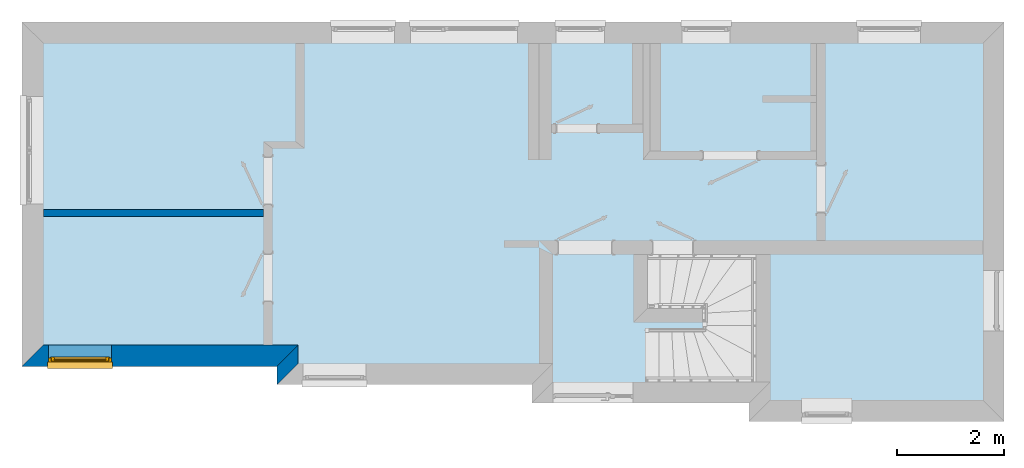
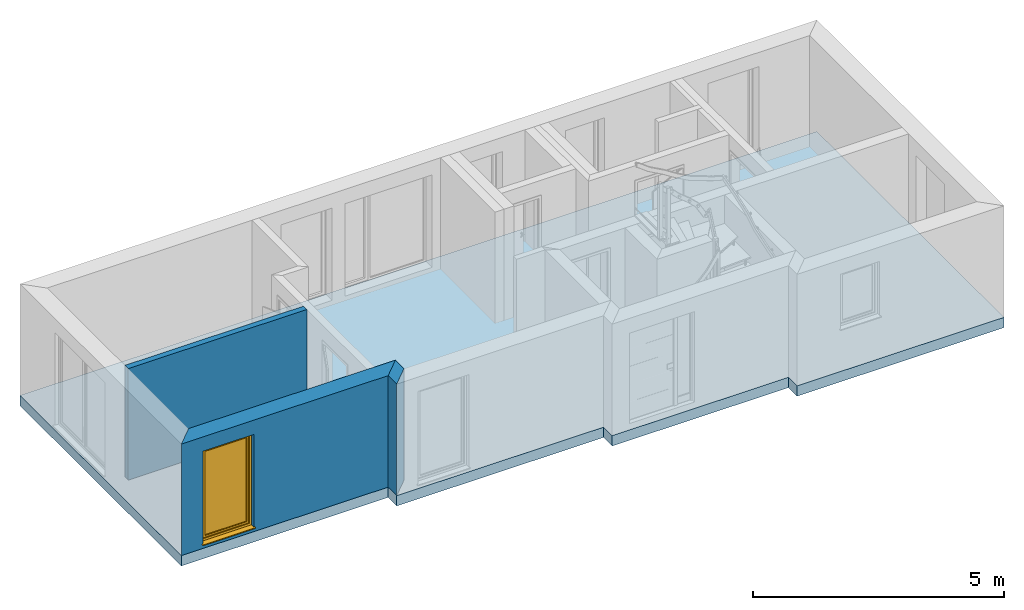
# One storey, part 1 of 13: 3 walls, 1 slab, 1 window, 1 opening.
"""IFC2X3 building model written with IfcOpenShell, lengths in millimetres."""

from ifc_helpers import new_model, si_unit, frame, origin_with_axes, place, context, project, spatial, faceted_brep, material, layer, layer_set, layer_usage, type_object, element, fill, save


model = new_model("IFC2X3")

# Units and contexts
model_context = context("Model", 3, world=origin_with_axes())
ifc_project = project(units=[si_unit("LENGTHUNIT", "METRE", prefix="MILLI")], contexts=[model_context])

# Site, building, storey
site_placement = place(None, origin_with_axes())
site = spatial("IfcSite", under=ifc_project, at=site_placement, Name="Site", CompositionType="ELEMENT")
building_placement = place(site_placement, origin_with_axes())
building = spatial("IfcBuilding", under=site, at=building_placement, Name="?", CompositionType="ELEMENT")
storey_placement = place(building_placement, origin_with_axes())
storey = spatial("IfcBuildingStorey", under=building, at=storey_placement, Name="Erdgeschoß", CompositionType="ELEMENT", Elevation=0.0)

# Slab
slab_placement = place(storey_placement, frame((0.0, 0.0, -250.0), z_axis=(0.0, 0.0, 1.0), x_axis=(1.0, 0.0, 0.0)))
element("IfcSlab", 1, at=slab_placement, inside=storey, Name="DE", PredefinedType="BASESLAB", context=model_context, shape_type="Brep", body=[
    faceted_brep([(0.0, -6415.0, 0.0), (0.0, 0.0, 0.0), (18300.0, 0.0, 0.0), (18300.0, -7440.0, 0.0), (13550.0, -7440.0, 0.0), (13550.0, -7098.0, 0.0), (9500.0, -7098.0, 0.0), (9500.0, -6756.0, 0.0), (4750.0, -6756.0, 0.0), (4750.0, -6415.0, 0.0), (0.0, -6415.0, 250.0), (4750.0, -6415.0, 250.0), (4750.0, -6756.0, 250.0), (9500.0, -6756.0, 250.0), (9500.0, -7098.0, 250.0), (13550.0, -7098.0, 250.0), (13550.0, -7440.0, 250.0), (18300.0, -7440.0, 250.0), (18300.0, 0.0, 250.0), (0.0, 0.0, 250.0), (9500.0, -6756.0, 0.0), (9500.0, -6756.0, 250.0), (4750.0, -6756.0, 250.0), (4750.0, -6756.0, 0.0), (9500.0, -7098.0, 0.0), (9500.0, -7098.0, 250.0), (9500.0, -6756.0, 250.0), (9500.0, -6756.0, 0.0), (18300.0, -7440.0, 0.0), (18300.0, -7440.0, 250.0), (13550.0, -7440.0, 250.0), (13550.0, -7440.0, 0.0), (18300.0, 0.0, 0.0), (18300.0, 0.0, 250.0), (18300.0, -7440.0, 250.0), (18300.0, -7440.0, 0.0), (4750.0, -6756.0, 0.0), (4750.0, -6756.0, 250.0), (4750.0, -6415.0, 250.0), (4750.0, -6415.0, 0.0), (13550.0, -7098.0, 0.0), (13550.0, -7098.0, 250.0), (9500.0, -7098.0, 250.0), (9500.0, -7098.0, 0.0), (4750.0, -6415.0, 0.0), (4750.0, -6415.0, 250.0), (0.0, -6415.0, 250.0), (0.0, -6415.0, 0.0), (0.0, 0.0, 0.0), (0.0, 0.0, 250.0), (18300.0, 0.0, 250.0), (18300.0, 0.0, 0.0), (0.0, -6415.0, 0.0), (0.0, -6415.0, 250.0), (0.0, 0.0, 250.0), (0.0, 0.0, 0.0), (13550.0, -7440.0, 0.0), (13550.0, -7440.0, 250.0), (13550.0, -7098.0, 250.0), (13550.0, -7098.0, 0.0)], [[[0, 1, 2, 3, 4, 5, 6, 7, 8, 9]], [[10, 11, 12, 13, 14, 15, 16, 17, 18, 19]], [[20, 21, 22, 23]], [[24, 25, 26, 27]], [[28, 29, 30, 31]], [[32, 33, 34, 35]], [[36, 37, 38, 39]], [[40, 41, 42, 43]], [[44, 45, 46, 47]], [[48, 49, 50, 51]], [[52, 53, 54, 55]], [[56, 57, 58, 59]]]),
])

# Wall
ifc_material_1 = material(Name="Material_AW")
ifc_layer_1 = layer(ifc_material_1, 395.0, ventilated=False)
ifc_layer_set_1 = layer_set([ifc_layer_1], Name="MaterialLayerSet_AW")
ifc_layer_usage_1 = layer_usage(ifc_layer_set_1, "AXIS2", "NEGATIVE", 197.5)
wall_1_placement = place(storey_placement, frame((4947.5, -6558.5, 0.0), z_axis=(0.0, 0.0, 1.0), x_axis=(0.0, 1.0, 0.0)))
element("IfcWall", 2, at=wall_1_placement, inside=storey, material=ifc_layer_usage_1, Name="AW-08", context=model_context, shape_type="Brep", body=[
    faceted_brep([(538.50000682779, -197.5, 0.0), (538.50000682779, -197.5, 2707.0), (197.5, -197.5, 2707.0), (197.5, -197.5, 0.0), (143.50000682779, 197.5, 0.0), (143.50000682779, 197.5, 150.0), (143.50000682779, 197.5, 2707.0), (538.50000682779, -197.5, 2707.0), (538.50000682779, -197.5, 0.0), (-197.5, 197.5, 0.0), (-197.5, 197.5, 150.0), (143.50000682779, 197.5, 150.0), (143.50000682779, 197.5, 0.0), (-197.5, 197.5, 150.0), (-197.5, 197.5, 2707.0), (143.50000682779, 197.5, 2707.0), (143.50000682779, 197.5, 150.0), (197.5, -197.5, 0.0), (197.5, -197.5, 2707.0), (-197.5, 197.5, 2707.0), (-197.5, 197.5, 150.0), (-197.5, 197.5, 0.0), (197.5, -197.5, 0.0), (-197.5, 197.5, 0.0), (143.50000682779, 197.5, 0.0), (538.50000682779, -197.5, 0.0), (-197.5, 197.5, 2707.0), (197.5, -197.5, 2707.0), (538.50000682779, -197.5, 2707.0), (143.50000682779, 197.5, 2707.0)], [[[0, 1, 2, 3]], [[4, 5, 6, 7, 8]], [[9, 10, 11, 12]], [[13, 14, 15, 16]], [[17, 18, 19, 20, 21]], [[22, 23, 24, 25]], [[26, 27, 28, 29]]]),
])

# Wall, opening, window
wall_2_placement = place(storey_placement, frame((4947.5, -6217.5, 0.0), z_axis=(0.0, 0.0, 1.0), x_axis=(-1.0, 0.0, 0.0)))
wall_2 = element("IfcWall", 3, at=wall_2_placement, inside=storey, material=ifc_layer_usage_1, Name="AW-09", context=model_context, shape_type="Brep", body=[
    faceted_brep([(4552.50024192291, -197.5, 0.0), (4552.50024192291, -197.5, 2707.0), (-197.5, -197.5, 2707.0), (-197.5, -197.5, 0.0), (4947.50024192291, 197.5, 0.0), (4947.50024192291, 197.5, 150.0), (4947.50024192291, 197.5, 2707.0), (4552.50024192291, -197.5, 2707.0), (4552.50024192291, -197.5, 0.0), (197.5, 197.5, 0.0), (197.5, 197.5, 150.0), (3282.5, 197.5, 150.0), (3282.5, 197.5, 116.0), (4452.5, 197.5, 116.0), (4452.5, 197.5, 150.0), (4947.50024192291, 197.5, 150.0), (4947.50024192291, 197.5, 0.0), (197.5, 197.5, 150.0), (197.5, 197.5, 2707.0), (4947.50024192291, 197.5, 2707.0), (4947.50024192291, 197.5, 150.0), (4452.5, 197.5, 150.0), (4452.5, 197.5, 116.0), (3282.5, 197.5, 116.0), (3282.5, 197.5, 150.0), (-197.5, -197.5, 0.0), (-197.5, -197.5, 2707.0), (197.5, 197.5, 2707.0), (197.5, 197.5, 150.0), (197.5, 197.5, 0.0), (-197.5, -197.5, 0.0), (197.5, 197.5, 0.0), (4947.50024192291, 197.5, 0.0), (4552.50024192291, -197.5, 0.0), (197.5, 197.5, 2707.0), (-197.5, -197.5, 2707.0), (4552.50024192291, -197.5, 2707.0), (4947.50024192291, 197.5, 2707.0)], [[[0, 1, 2, 3]], [[4, 5, 6, 7, 8]], [[9, 10, 11, 12, 13, 14, 15, 16]], [[17, 18, 19, 20, 21, 22, 23, 24]], [[25, 26, 27, 28, 29]], [[30, 31, 32, 33]], [[34, 35, 36, 37]]]),
])
opening_placement = place(wall_2_placement, frame((3282.5, 0.0, 116.0), z_axis=(0.0, 0.0, 1.0), x_axis=(1.0, 0.0, 0.0)))
opening = element("IfcOpeningElement", 4, at=opening_placement, cuts=wall_2, Name="AW-09|FE08", context=model_context, shape_type="Brep", body=[
    faceted_brep([(0.0, 207.5, 0.0), (0.0, 207.5, 2244.0), (1170.0, 207.5, 2244.0), (1170.0, 207.5, 0.0), (0.0, -207.5, 0.0), (0.0, -207.5, 2244.0), (0.0, 207.5, 2244.0), (0.0, 207.5, 0.0), (1170.0, -207.5, 0.0), (0.0, -207.5, 0.0), (0.0, 207.5, 0.0), (1170.0, 207.5, 0.0), (1170.0, -207.5, 2244.0), (1170.0, -207.5, 0.0), (1170.0, 207.5, 0.0), (1170.0, 207.5, 2244.0), (0.0, -207.5, 2244.0), (1170.0, -207.5, 2244.0), (1170.0, 207.5, 2244.0), (0.0, 207.5, 2244.0), (0.0, -207.5, 0.0), (1170.0, -207.5, 0.0), (1170.0, -207.5, 2244.0), (0.0, -207.5, 2244.0)], [[[0, 1, 2, 3]], [[4, 5, 6, 7]], [[8, 9, 10, 11]], [[12, 13, 14, 15]], [[16, 17, 18, 19]], [[20, 21, 22, 23]]]),
])
window_style = type_object("IfcWindowStyle", Name="FE08", ConstructionType="NOTDEFINED", OperationType="SINGLE_PANEL", ParameterTakesPrecedence=True, Sizeable=False)
window_placement = place(opening_placement, frame((1170.0, 77.5, 0.0), z_axis=(0.0, 0.0, 1.0), x_axis=(-1.0, 0.0, 0.0)))
window = element("IfcWindow", 5, at=window_placement, inside=storey, type_object=window_style, Name="FE08", OverallHeight=2244.0, OverallWidth=1170.0, context=model_context, shape_type="Brep", body=[
    faceted_brep([(0.0, -36.0, 0.0), (1170.0, -36.0, 0.0), (1155.0, -36.0, 15.0), (15.0, -36.0, 15.0), (15.0, 36.0, 15.0), (1155.0, 36.0, 15.0), (1170.0, 36.0, 0.0), (0.0, 36.0, 0.0), (0.0, 36.0, 0.0), (1170.0, 36.0, 0.0), (1170.0, -36.0, 0.0), (0.0, -36.0, 0.0), (1170.0, -36.0, 0.0), (1170.0, -36.0, 2244.0), (1155.0, -36.0, 2229.0), (1155.0, -36.0, 15.0), (1155.0, 36.0, 14.9999542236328), (1155.0, 36.0, 2229.0), (1170.0, 36.0, 2244.0), (1170.0, 36.0, -4.57763671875e-05), (1170.0, 36.0, 0.0), (1170.0, 36.0, 2244.0), (1170.0, -36.0, 2244.0), (1170.0, -36.0, 0.0), (1170.0, -36.0, 2244.0), (-2.27373675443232e-13, -36.0, 2244.0), (14.9999999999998, -35.9995117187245, 2228.99999999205), (1155.0, -35.9995117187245, 2228.99999999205), (1155.0, 36.0, 2229.0), (14.9999999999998, 36.0, 2229.0), (-2.27373675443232e-13, 35.9995117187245, 2244.00000000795), (1170.0, 35.9995117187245, 2244.00000000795), (1170.0, 36.0, 2244.0), (0.0, 36.0, 2244.0), (0.0, -36.0, 2244.0), (1170.0, -36.0, 2244.0), (0.0, -36.0, 2244.0), (0.0, -36.0, 0.0), (15.0, -36.0, 15.0), (15.0, -36.0, 2229.0), (15.0, 36.0, 2228.99975585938), (15.0, 36.0, 14.999755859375), (0.0, 36.0, -0.000244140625), (0.0, 36.0, 2243.99975585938), (0.0, 36.0, 2244.0), (0.0, 36.0, 0.0), (0.0, -36.0, 0.0), (0.0, -36.0, 2244.0), (1155.0, 36.0, 15.0), (15.0, 36.0, 15.0), (43.0, 36.0, 43.0), (1127.0, 36.0, 43.0), (1127.0, 36.0, 43.0), (43.0, 36.0, 43.0), (43.0, -21.0, 43.0), (1127.0, -21.0, 43.0), (1127.0, -21.0, 43.0), (43.0, -21.0, 43.0), (60.0, -21.0, 60.0), (1110.0, -21.0, 60.0), (1110.0, -21.0, 60.0), (60.0, -21.0, 60.0), (60.0, -25.0, 60.0), (1110.0, -25.0, 60.0), (1110.0, -25.0, 60.0), (60.0, -25.0, 60.0), (53.0, -36.0014649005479, 52.9990537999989), (1117.0, -36.0014649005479, 52.9990537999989), (1117.0, -36.0, 53.0), (53.0, -36.0, 53.0), (15.0, -36.0, 15.0), (1155.0, -36.0, 15.0), (1155.0, 36.0, 2229.0), (1155.0, 36.0, 15.0), (1127.0, 36.0, 43.0), (1127.0, 36.0, 2201.0), (1127.0, 36.0, 2201.0), (1127.0, 36.0, 43.0), (1127.0, -21.0, 43.0), (1127.0, -21.0, 2201.0), (1127.0, -21.0, 2201.0), (1127.0, -21.0, 43.0), (1110.0, -21.0, 60.0), (1110.0, -21.0, 2184.0), (1110.0, -21.0, 2184.0), (1110.0, -21.0, 60.0), (1110.0, -25.0, 60.0), (1110.0, -25.0, 2184.0), (1110.0, -25.0000000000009, 2184.0), (1110.0, -25.0000000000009, 60.0), (1117.00097675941, -36.0014647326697, 53.0), (1117.00097675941, -36.0014647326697, 2191.0), (1117.0, -36.0, 2191.0), (1117.0, -36.0, 53.0), (1155.0, -36.0, 15.0), (1155.0, -36.0, 2229.0), (15.0, 36.0, 2229.0), (1155.0, 36.0, 2229.0), (1127.0, 36.0004882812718, 2200.99999999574), (43.0, 36.0004882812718, 2200.99999999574), (43.0, 36.0, 2201.0), (1127.0, 36.0, 2201.0), (1127.0, -21.0, 2201.0), (43.0, -21.0, 2201.0), (43.0000000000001, -21.0, 2201.0), (1127.0, -21.0, 2201.0), (1110.0, -21.0004882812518, 2183.99999999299), (60.0000000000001, -21.0004882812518, 2183.99999999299), (60.0, -21.0, 2184.0), (1110.0, -21.0, 2184.0), (1110.0, -25.0, 2184.0), (60.0, -25.0, 2184.0), (60.0, -25.0000000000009, 2184.0), (1110.0, -25.0000000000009, 2184.0), (1117.0, -36.0009765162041, 2191.00097633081), (53.0, -36.0009765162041, 2191.00097633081), (53.0000000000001, -36.0, 2191.0), (1117.0, -36.0, 2191.0), (1155.0, -36.0004882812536, 2229.00000000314), (15.0000000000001, -36.0004882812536, 2229.00000000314), (15.0, 36.0, 15.0), (15.0, 36.0, 2229.0), (43.0, 36.0, 2201.0), (43.0, 36.0, 43.0), (43.0, 36.0, 42.9999847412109), (43.0, 36.0, 2201.0), (43.0, -21.0, 2201.0), (43.0, -21.0, 42.9999847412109), (43.0, -21.0, 42.9999847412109), (43.0, -21.0, 2201.0), (60.0, -21.0, 2184.0), (60.0, -21.0, 59.9999847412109), (60.0, -21.0, 59.9999847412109), (60.0, -21.0, 2184.0), (60.0, -25.0, 2184.0), (60.0, -25.0, 59.9999847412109), (60.0, -25.0, 59.9999847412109), (60.0, -25.0, 2184.0), (52.9990232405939, -36.0014647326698, 2191.0), (52.9990232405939, -36.0014647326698, 52.9999847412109), (53.0, -36.0, 53.0), (53.0, -36.0, 2191.0), (15.0, -36.0, 2229.0), (15.0, -36.0, 15.0), (1137.0, 52.0, 33.0), (33.0, 52.0, 33.0), (96.0, 52.0, 96.0), (1074.0, 52.0, 96.0), (1074.0, 52.0, 96.0), (96.0000000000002, 52.0, 96.0), (110.0, 19.9985360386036, 110.000686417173), (1060.0, 19.9985360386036, 110.000686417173), (1060.0, 20.0, 110.0), (110.0, 20.0, 110.0), (103.0, 20.0, 103.0), (1067.0, 20.0, 103.0), (1067.0, 20.0, 103.0), (103.0, 20.0, 103.0), (103.0, -4.0, 103.0), (1067.0, -4.0, 103.0), (1067.0, -4.0, 103.0), (103.0, -4.0, 103.0), (110.0, -4.0, 110.0), (1060.0, -4.0, 110.0), (1060.0, -4.0, 110.0), (110.0, -4.0, 110.0), (102.0, -21.001464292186, 101.999175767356), (1068.0, -21.001464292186, 101.999175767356), (1068.0, -21.0, 102.0), (102.0, -21.0, 102.0), (51.0, -21.0, 51.0), (1119.0, -21.0, 51.0), (1119.0, -21.0, 51.0), (51.0, -21.0, 51.0), (51.0, 36.0, 51.0), (1119.0, 36.0, 51.0), (1119.0, 36.0, 51.0), (51.0, 36.0, 51.0), (33.0, 36.0, 33.0), (1137.0, 36.0, 33.0), (1137.0, 36.0, 33.0), (33.0, 36.0, 33.0), (33.0, 52.0, 33.0), (1137.0, 52.0, 33.0), (1137.0, 52.0, 2211.0), (1137.0, 52.0, 33.0), (1074.0, 52.0, 96.0), (1074.0, 52.0, 2148.0), (1074.0, 52.0, 2148.0), (1074.0, 52.0, 96.0), (1059.99902341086, 19.99853575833, 110.0), (1059.99902341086, 19.99853575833, 2134.0), (1060.0, 20.0, 2134.0), (1060.0, 20.0, 110.0), (1067.0, 20.0, 103.0), (1067.0, 20.0, 2141.0), (1067.0, 20.0, 2141.0), (1067.0, 20.0, 103.0), (1067.0, -4.0, 103.0), (1067.0, -4.0, 2141.0), (1067.0, -4.0, 2141.0), (1067.0, -4.0, 103.0), (1060.0, -4.0, 110.0), (1060.0, -4.0, 2134.0), (1060.0, -4.0, 2134.0), (1060.0, -4.0, 110.0), (1068.00097677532, -21.0014648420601, 102.0), (1068.00097677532, -21.0014648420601, 2142.0), (1068.0, -21.0, 2142.0), (1068.0, -21.0, 102.0), (1119.0, -21.0, 51.0), (1119.0, -21.0, 2193.0), (1119.0, -21.0, 2193.0), (1119.0, -21.0, 51.0), (1119.0, 36.0, 51.0), (1119.0, 36.0, 2193.0), (1119.0, 36.0, 2193.0), (1119.0, 36.0, 51.0), (1137.0, 36.0, 33.0), (1137.0, 36.0, 2211.0), (1137.0, 36.0, 2211.0), (1137.0, 36.0, 33.0), (1137.0, 52.0, 33.0), (1137.0, 52.0, 2211.0), (33.0, 52.0, 2211.0), (1137.0, 52.0, 2211.0), (1074.0, 52.0, 2148.0), (96.0, 52.0, 2148.0), (96.0, 52.0, 2148.0), (1074.0, 52.0, 2148.0), (1060.0, 19.9985358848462, 2133.99926771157), (110.0, 19.9985358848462, 2133.99926771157), (110.0, 20.0, 2134.0), (1060.0, 20.0, 2134.0), (1067.0, 20.0, 2141.0), (103.0, 20.0, 2141.0), (103.0, 20.0, 2141.0), (1067.0, 20.0, 2141.0), (1067.0, -4.0, 2141.0), (103.0, -4.0, 2141.0), (103.0, -4.0, 2141.0), (1067.0, -4.0, 2141.0), (1060.0, -4.0, 2134.0), (110.0, -4.0, 2134.0), (110.0, -4.0, 2134.0), (1060.0, -4.0, 2134.0), (1068.0, -21.0014648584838, 2142.00073259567), (102.0, -21.0014648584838, 2142.00073259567), (102.0, -21.0, 2142.0), (1068.0, -21.0, 2142.0), (1119.0, -21.0, 2193.0), (51.0, -21.0, 2193.0), (51.0, -21.0, 2193.0), (1119.0, -21.0, 2193.0), (1119.0, 36.0, 2193.0), (51.0, 36.0, 2193.0), (51.0, 36.0, 2193.0), (1119.0, 36.0, 2193.0), (1137.0, 36.0, 2211.0), (33.0, 36.0, 2211.0), (33.0, 36.0, 2211.0), (1137.0, 36.0, 2211.0), (1137.0, 52.0, 2211.0), (33.0, 52.0, 2211.0), (33.0, 52.0, 32.9999847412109), (33.0, 52.0, 2211.0), (96.0, 52.0, 2148.0), (96.0, 52.0, 95.9999847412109), (95.9999999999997, 52.0000000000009, 95.9999847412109), (95.9999999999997, 52.0000000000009, 2148.0), (110.000976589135, 19.9985357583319, 2134.0), (110.000976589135, 19.9985357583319, 109.999984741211), (110.0, 20.0, 110.0), (110.0, 20.0, 2134.0), (103.0, 20.0, 2141.0), (103.0, 20.0, 103.0), (103.0, 20.0, 103.000015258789), (103.0, 20.0, 2141.0), (103.0, -4.0, 2141.0), (103.0, -4.0, 103.000015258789), (103.0, -4.0, 103.000015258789), (103.0, -4.0, 2141.0), (110.0, -4.0, 2134.0), (110.0, -4.0, 110.000015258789), (110.0, -4.0, 110.0), (110.0, -4.0, 2134.0), (101.999023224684, -21.0014648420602, 2142.0), (101.999023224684, -21.0014648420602, 102.0), (102.0, -21.0, 102.0), (102.0, -21.0, 2142.0), (51.0, -21.0, 2193.0), (51.0, -21.0, 51.0), (51.0, -21.0, 51.0), (51.0, -21.0, 2193.0), (51.0, 36.0, 2193.0), (51.0, 36.0, 51.0), (51.0, 36.0, 51.0), (51.0, 36.0, 2193.0), (33.0, 36.0, 2211.0), (33.0, 36.0, 33.0), (33.0, 36.0, 32.9999847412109), (33.0, 36.0, 2211.0), (33.0, 52.0, 2211.0), (33.0, 52.0, 32.9999847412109), (110.0, 20.0, 110.0), (110.0, 20.0, 2134.0), (1060.0, 20.0, 2134.0), (1060.0, 20.0, 110.0), (110.0, -4.0, 110.0), (1060.0, -4.0, 110.0), (1060.0, -4.0, 2134.0), (110.0, -4.0, 2134.0), (-20.0, -36.0, 0.5), (-20.0, -160.0, 0.5), (1190.0, -160.0, 0.5), (1190.0, -36.0, 0.5), (-20.0, -36.0, -19.5), (-20.0, -36.0, 0.5), (1190.0, -36.0, 0.5), (1190.0, -36.0, -19.5), (-20.0, -160.0, -19.5), (-20.0, -36.0, -19.5), (1190.0, -36.0, -19.5), (1190.0, -160.0, -19.5), (-20.0, -160.0, 0.5), (-20.0, -160.0, -19.5), (1190.0, -160.0, -19.5), (1190.0, -160.0, 0.5), (-20.0, -160.0, -19.5), (-20.0, -160.0, 0.5), (-20.0, -36.0, 0.5), (-20.0, -36.0, -19.5), (1190.0, -160.0, 0.5), (1190.0, -160.0, -19.5), (1190.0, -36.0, -19.5), (1190.0, -36.0, 0.5)], [[[0, 1, 2, 3]], [[4, 5, 6, 7]], [[8, 9, 10, 11]], [[12, 13, 14, 15]], [[16, 17, 18, 19]], [[20, 21, 22, 23]], [[24, 25, 26, 27]], [[28, 29, 30, 31]], [[32, 33, 34, 35]], [[36, 37, 38, 39]], [[40, 41, 42, 43]], [[44, 45, 46, 47]], [[48, 49, 50, 51]], [[52, 53, 54, 55]], [[56, 57, 58, 59]], [[60, 61, 62, 63]], [[64, 65, 66, 67]], [[68, 69, 70, 71]], [[72, 73, 74, 75]], [[76, 77, 78, 79]], [[80, 81, 82, 83]], [[84, 85, 86, 87]], [[88, 89, 90, 91]], [[92, 93, 94, 95]], [[96, 97, 98, 99]], [[100, 101, 102, 103]], [[104, 105, 106, 107]], [[108, 109, 110, 111]], [[112, 113, 114, 115]], [[116, 117, 118, 119]], [[120, 121, 122, 123]], [[124, 125, 126, 127]], [[128, 129, 130, 131]], [[132, 133, 134, 135]], [[136, 137, 138, 139]], [[140, 141, 142, 143]], [[144, 145, 146, 147]], [[148, 149, 150, 151]], [[152, 153, 154, 155]], [[156, 157, 158, 159]], [[160, 161, 162, 163]], [[164, 165, 166, 167]], [[168, 169, 170, 171]], [[172, 173, 174, 175]], [[176, 177, 178, 179]], [[180, 181, 182, 183]], [[184, 185, 186, 187]], [[188, 189, 190, 191]], [[192, 193, 194, 195]], [[196, 197, 198, 199]], [[200, 201, 202, 203]], [[204, 205, 206, 207]], [[208, 209, 210, 211]], [[212, 213, 214, 215]], [[216, 217, 218, 219]], [[220, 221, 222, 223]], [[224, 225, 226, 227]], [[228, 229, 230, 231]], [[232, 233, 234, 235]], [[236, 237, 238, 239]], [[240, 241, 242, 243]], [[244, 245, 246, 247]], [[248, 249, 250, 251]], [[252, 253, 254, 255]], [[256, 257, 258, 259]], [[260, 261, 262, 263]], [[264, 265, 266, 267]], [[268, 269, 270, 271]], [[272, 273, 274, 275]], [[276, 277, 278, 279]], [[280, 281, 282, 283]], [[284, 285, 286, 287]], [[288, 289, 290, 291]], [[292, 293, 294, 295]], [[296, 297, 298, 299]], [[300, 301, 302, 303]], [[304, 305, 306, 307]], [[308, 309, 310, 311]], [[312, 313, 314, 315]], [[316, 317, 318, 319]], [[320, 321, 322, 323]], [[324, 325, 326, 327]], [[328, 329, 330, 331]], [[332, 333, 334, 335]]]),
])
fill(opening, window)

# Wall
ifc_material_2 = material(Name="Material_IW")
ifc_layer_2 = layer(ifc_material_2, 132.0, ventilated=False)
ifc_layer_set_2 = layer_set([ifc_layer_2], Name="MaterialLayerSet_IW")
ifc_layer_usage_2 = layer_usage(ifc_layer_set_2, "AXIS2", "NEGATIVE", 66.0)
wall_3_placement = place(storey_placement, frame((395.0, -3554.0, 0.0), z_axis=(0.0, 0.0, 1.0), x_axis=(1.0, 0.0, 0.0)))
element("IfcWall", 6, at=wall_3_placement, inside=storey, material=ifc_layer_usage_2, Name="IW-14", context=model_context, shape_type="Brep", body=[
    faceted_brep([(4100.0, -66.0, 0.0), (4100.0, -66.0, 2707.0), (0.0, -66.0, 2707.0), (0.0, -66.0, 0.0), (4100.0, 66.0, 0.0), (4100.0, 66.0, 2707.0), (4100.0, -66.0, 2707.0), (4100.0, -66.0, 0.0), (0.0, 66.0, 0.0), (0.0, 66.0, 2707.0), (4100.0, 66.0, 2707.0), (4100.0, 66.0, 0.0), (0.0, -66.0, 0.0), (0.0, -66.0, 2707.0), (0.0, 66.0, 2707.0), (0.0, 66.0, 0.0), (0.0, -66.0, 0.0), (0.0, 66.0, 0.0), (4100.0, 66.0, 0.0), (4100.0, -66.0, 0.0), (0.0, -66.0, 2707.0), (4100.0, -66.0, 2707.0), (4100.0, 66.0, 2707.0), (0.0, 66.0, 2707.0)], [[[0, 1, 2, 3]], [[4, 5, 6, 7]], [[8, 9, 10, 11]], [[12, 13, 14, 15]], [[16, 17, 18, 19]], [[20, 21, 22, 23]]]),
])

save(model, "model.ifc")
